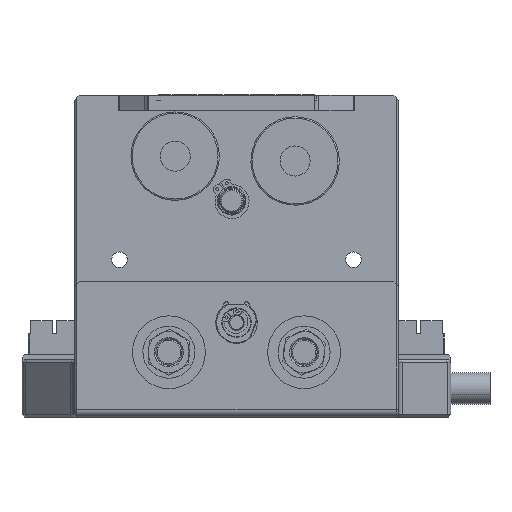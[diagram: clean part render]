
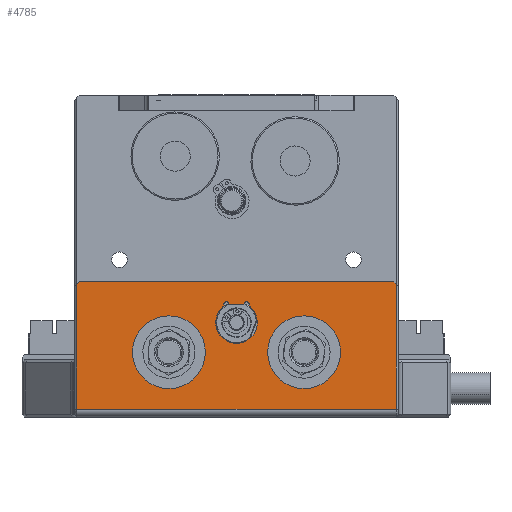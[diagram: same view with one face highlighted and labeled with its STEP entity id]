
A CAD part, front view. The second image highlights one B-rep face of the part: STEP entity #4785.
In plain terms, the highlighted planar face has unit normal (0, -1, 0).
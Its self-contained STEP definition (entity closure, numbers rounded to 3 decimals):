
#39 = DIRECTION ( 'NONE',  ( -1., 0., 0. ) ) ;
#606 = VERTEX_POINT ( 'NONE', #31852 ) ;
#1008 = VECTOR ( 'NONE', #23265, 1000. ) ;
#1158 = ORIENTED_EDGE ( 'NONE', *, *, #25268, .T. ) ;
#1224 = VECTOR ( 'NONE', #24396, 1000. ) ;
#2333 = CARTESIAN_POINT ( 'NONE',  ( 2.873, -118.75, 43.34 ) ) ;
#2404 = DIRECTION ( 'NONE',  ( 0., 0., -1. ) ) ;
#2971 = CARTESIAN_POINT ( 'NONE',  ( 82.5, -118.75, 52. ) ) ;
#3247 = DIRECTION ( 'NONE',  ( 0., 0., -1. ) ) ;
#3511 = AXIS2_PLACEMENT_3D ( 'NONE', #29538, #26304, #22823 ) ;
#3602 = AXIS2_PLACEMENT_3D ( 'NONE', #28238, #38961, #35236 ) ;
#3922 = VERTEX_POINT ( 'NONE', #26788 ) ;
#4207 = CARTESIAN_POINT ( 'NONE',  ( 82.5, -118.75, 3. ) ) ;
#4588 = ORIENTED_EDGE ( 'NONE', *, *, #44828, .T. ) ;
#4666 = LINE ( 'NONE', #4207, #18548 ) ;
#4785 = ADVANCED_FACE ( 'NONE', ( #21623, #17646, #13523, #20710 ), #17198, .F. ) ;
#5247 = ORIENTED_EDGE ( 'NONE', *, *, #43608, .F. ) ;
#5639 = EDGE_LOOP ( 'NONE', ( #7871, #43516, #8534, #22244, #5247 ) ) ;
#5897 = EDGE_CURVE ( 'NONE', #37670, #32033, #12031, .T. ) ;
#6636 = CARTESIAN_POINT ( 'NONE',  ( -60.5, -118.75, 52. ) ) ;
#7637 = DIRECTION ( 'NONE',  ( 0., -1., 0. ) ) ;
#7661 = EDGE_LOOP ( 'NONE', ( #26835, #35515 ) ) ;
#7871 = ORIENTED_EDGE ( 'NONE', *, *, #28468, .F. ) ;
#8488 = EDGE_CURVE ( 'NONE', #43052, #22455, #4666, .T. ) ;
#8534 = ORIENTED_EDGE ( 'NONE', *, *, #12967, .F. ) ;
#8804 = EDGE_CURVE ( 'NONE', #32033, #37670, #36448, .T. ) ;
#9250 = EDGE_LOOP ( 'NONE', ( #16688, #28368 ) ) ;
#9345 = CARTESIAN_POINT ( 'NONE',  ( -2.873, -118.75, 43.34 ) ) ;
#9544 = EDGE_CURVE ( 'NONE', #43052, #27213, #13148, .T. ) ;
#9549 = CARTESIAN_POINT ( 'NONE',  ( 26., -118.75, 24.943 ) ) ;
#10470 = VECTOR ( 'NONE', #27346, 1000. ) ;
#10921 = EDGE_LOOP ( 'NONE', ( #22512, #37383, #45897, #4588, #1158, #22040 ) ) ;
#11000 = CARTESIAN_POINT ( 'NONE',  ( 61.5, -118.75, 51. ) ) ;
#11748 = CARTESIAN_POINT ( 'NONE',  ( 26., -118.75, 38.943 ) ) ;
#12031 = CIRCLE ( 'NONE', #26939, 14. ) ;
#12855 = CARTESIAN_POINT ( 'NONE',  ( -61.5, -118.75, 3. ) ) ;
#12967 = EDGE_CURVE ( 'NONE', #42818, #24122, #24683, .T. ) ;
#13123 = CARTESIAN_POINT ( 'NONE',  ( -61.5, -118.75, 51. ) ) ;
#13148 = LINE ( 'NONE', #30584, #10470 ) ;
#13523 = FACE_BOUND ( 'NONE', #7661, .T. ) ;
#15128 = AXIS2_PLACEMENT_3D ( 'NONE', #43272, #7637, #43496 ) ;
#15882 = CIRCLE ( 'NONE', #34508, 8. ) ;
#16618 = EDGE_CURVE ( 'NONE', #27213, #3922, #23958, .T. ) ;
#16688 = ORIENTED_EDGE ( 'NONE', *, *, #8804, .F. ) ;
#17071 = VERTEX_POINT ( 'NONE', #45306 ) ;
#17198 = PLANE ( 'NONE',  #26166 ) ;
#17534 = LINE ( 'NONE', #6636, #18245 ) ;
#17646 = FACE_BOUND ( 'NONE', #9250, .T. ) ;
#18116 = DIRECTION ( 'NONE',  ( 0., 0., 1. ) ) ;
#18245 = VECTOR ( 'NONE', #45515, 1000. ) ;
#18548 = VECTOR ( 'NONE', #43756, 1000. ) ;
#18676 = CARTESIAN_POINT ( 'NONE',  ( 4.716, -118.75, 42.802 ) ) ;
#19089 = EDGE_CURVE ( 'NONE', #3922, #34059, #28719, .T. ) ;
#19391 = CIRCLE ( 'NONE', #32014, 14. ) ;
#20320 = CARTESIAN_POINT ( 'NONE',  ( -26., -118.75, 24.943 ) ) ;
#20537 = VERTEX_POINT ( 'NONE', #28799 ) ;
#20710 = FACE_OUTER_BOUND ( 'NONE', #10921, .T. ) ;
#21359 = CARTESIAN_POINT ( 'NONE',  ( -26., -118.75, 24.943 ) ) ;
#21623 = FACE_BOUND ( 'NONE', #5639, .T. ) ;
#22040 = ORIENTED_EDGE ( 'NONE', *, *, #8488, .F. ) ;
#22244 = ORIENTED_EDGE ( 'NONE', *, *, #29350, .F. ) ;
#22455 = VERTEX_POINT ( 'NONE', #12855 ) ;
#22512 = ORIENTED_EDGE ( 'NONE', *, *, #9544, .T. ) ;
#22823 = DIRECTION ( 'NONE',  ( 0., 0., -1. ) ) ;
#22855 = CIRCLE ( 'NONE', #3511, 8. ) ;
#22861 = VERTEX_POINT ( 'NONE', #13123 ) ;
#23265 = DIRECTION ( 'NONE',  ( -0.707, 0., 0.707 ) ) ;
#23349 = CIRCLE ( 'NONE', #15128, 14. ) ;
#23958 = LINE ( 'NONE', #38147, #1008 ) ;
#24052 = DIRECTION ( 'NONE',  ( 0., -1., 0. ) ) ;
#24122 = VERTEX_POINT ( 'NONE', #9345 ) ;
#24396 = DIRECTION ( 'NONE',  ( -1., 0., 0. ) ) ;
#24680 = VECTOR ( 'NONE', #39, 1000. ) ;
#24683 = LINE ( 'NONE', #32100, #24680 ) ;
#25268 = EDGE_CURVE ( 'NONE', #22861, #22455, #26323, .T. ) ;
#25298 = CIRCLE ( 'NONE', #40153, 1. ) ;
#26166 = AXIS2_PLACEMENT_3D ( 'NONE', #39103, #39327, #18116 ) ;
#26251 = CARTESIAN_POINT ( 'NONE',  ( 61.5, -118.75, 3. ) ) ;
#26304 = DIRECTION ( 'NONE',  ( 0., -1., 0. ) ) ;
#26323 = LINE ( 'NONE', #30027, #35757 ) ;
#26788 = CARTESIAN_POINT ( 'NONE',  ( 60.5, -118.75, 52. ) ) ;
#26835 = ORIENTED_EDGE ( 'NONE', *, *, #32309, .F. ) ;
#26939 = AXIS2_PLACEMENT_3D ( 'NONE', #20320, #30815, #34540 ) ;
#27213 = VERTEX_POINT ( 'NONE', #11000 ) ;
#27346 = DIRECTION ( 'NONE',  ( 0., 0., 1. ) ) ;
#27540 = AXIS2_PLACEMENT_3D ( 'NONE', #21359, #35112, #3247 ) ;
#28238 = CARTESIAN_POINT ( 'NONE',  ( 3.873, -118.75, 43.34 ) ) ;
#28368 = ORIENTED_EDGE ( 'NONE', *, *, #5897, .F. ) ;
#28427 = CARTESIAN_POINT ( 'NONE',  ( 0., -118.75, 36.34 ) ) ;
#28468 = EDGE_CURVE ( 'NONE', #20537, #606, #22855, .T. ) ;
#28719 = LINE ( 'NONE', #2971, #1224 ) ;
#28799 = CARTESIAN_POINT ( 'NONE',  ( -4.716, -118.75, 42.802 ) ) ;
#29350 = EDGE_CURVE ( 'NONE', #37556, #42818, #37796, .T. ) ;
#29538 = CARTESIAN_POINT ( 'NONE',  ( 0., -118.75, 36.34 ) ) ;
#30027 = CARTESIAN_POINT ( 'NONE',  ( -61.5, -118.75, 3. ) ) ;
#30584 = CARTESIAN_POINT ( 'NONE',  ( 61.5, -118.75, 3. ) ) ;
#30667 = EDGE_CURVE ( 'NONE', #24122, #20537, #25298, .T. ) ;
#30815 = DIRECTION ( 'NONE',  ( 0., -1., 0. ) ) ;
#31852 = CARTESIAN_POINT ( 'NONE',  ( 0., -118.75, 28.34 ) ) ;
#32014 = AXIS2_PLACEMENT_3D ( 'NONE', #9549, #34234, #41248 ) ;
#32033 = VERTEX_POINT ( 'NONE', #33123 ) ;
#32100 = CARTESIAN_POINT ( 'NONE',  ( -2.873, -118.75, 43.34 ) ) ;
#32309 = EDGE_CURVE ( 'NONE', #17071, #45825, #19391, .T. ) ;
#32918 = CARTESIAN_POINT ( 'NONE',  ( -60.5, -118.75, 52. ) ) ;
#33123 = CARTESIAN_POINT ( 'NONE',  ( -26., -118.75, 10.943 ) ) ;
#34059 = VERTEX_POINT ( 'NONE', #32918 ) ;
#34234 = DIRECTION ( 'NONE',  ( 0., -1., 0. ) ) ;
#34265 = CARTESIAN_POINT ( 'NONE',  ( -3.873, -118.75, 43.34 ) ) ;
#34508 = AXIS2_PLACEMENT_3D ( 'NONE', #28427, #45875, #36087 ) ;
#34540 = DIRECTION ( 'NONE',  ( 0., 0., -1. ) ) ;
#35112 = DIRECTION ( 'NONE',  ( 0., -1., 0. ) ) ;
#35236 = DIRECTION ( 'NONE',  ( 0., 0., -1. ) ) ;
#35515 = ORIENTED_EDGE ( 'NONE', *, *, #35879, .F. ) ;
#35757 = VECTOR ( 'NONE', #43996, 1000. ) ;
#35879 = EDGE_CURVE ( 'NONE', #45825, #17071, #23349, .T. ) ;
#36087 = DIRECTION ( 'NONE',  ( 0., 0., -1. ) ) ;
#36448 = CIRCLE ( 'NONE', #27540, 14. ) ;
#37383 = ORIENTED_EDGE ( 'NONE', *, *, #16618, .T. ) ;
#37556 = VERTEX_POINT ( 'NONE', #18676 ) ;
#37670 = VERTEX_POINT ( 'NONE', #41905 ) ;
#37796 = CIRCLE ( 'NONE', #3602, 1. ) ;
#38147 = CARTESIAN_POINT ( 'NONE',  ( 60.5, -118.75, 52. ) ) ;
#38961 = DIRECTION ( 'NONE',  ( 0., -1., 0. ) ) ;
#39103 = CARTESIAN_POINT ( 'NONE',  ( 82.5, -118.75, 3. ) ) ;
#39327 = DIRECTION ( 'NONE',  ( 0., 1., 0. ) ) ;
#40153 = AXIS2_PLACEMENT_3D ( 'NONE', #34265, #24052, #2404 ) ;
#41248 = DIRECTION ( 'NONE',  ( 0., 0., -1. ) ) ;
#41905 = CARTESIAN_POINT ( 'NONE',  ( -26., -118.75, 38.943 ) ) ;
#42818 = VERTEX_POINT ( 'NONE', #2333 ) ;
#43052 = VERTEX_POINT ( 'NONE', #26251 ) ;
#43272 = CARTESIAN_POINT ( 'NONE',  ( 26., -118.75, 24.943 ) ) ;
#43496 = DIRECTION ( 'NONE',  ( 0., 0., -1. ) ) ;
#43516 = ORIENTED_EDGE ( 'NONE', *, *, #30667, .F. ) ;
#43608 = EDGE_CURVE ( 'NONE', #606, #37556, #15882, .T. ) ;
#43756 = DIRECTION ( 'NONE',  ( -1., 0., 0. ) ) ;
#43996 = DIRECTION ( 'NONE',  ( 0., 0., -1. ) ) ;
#44828 = EDGE_CURVE ( 'NONE', #34059, #22861, #17534, .T. ) ;
#45306 = CARTESIAN_POINT ( 'NONE',  ( 26., -118.75, 10.943 ) ) ;
#45515 = DIRECTION ( 'NONE',  ( -0.707, 0., -0.707 ) ) ;
#45825 = VERTEX_POINT ( 'NONE', #11748 ) ;
#45875 = DIRECTION ( 'NONE',  ( 0., -1., 0. ) ) ;
#45897 = ORIENTED_EDGE ( 'NONE', *, *, #19089, .T. ) ;
